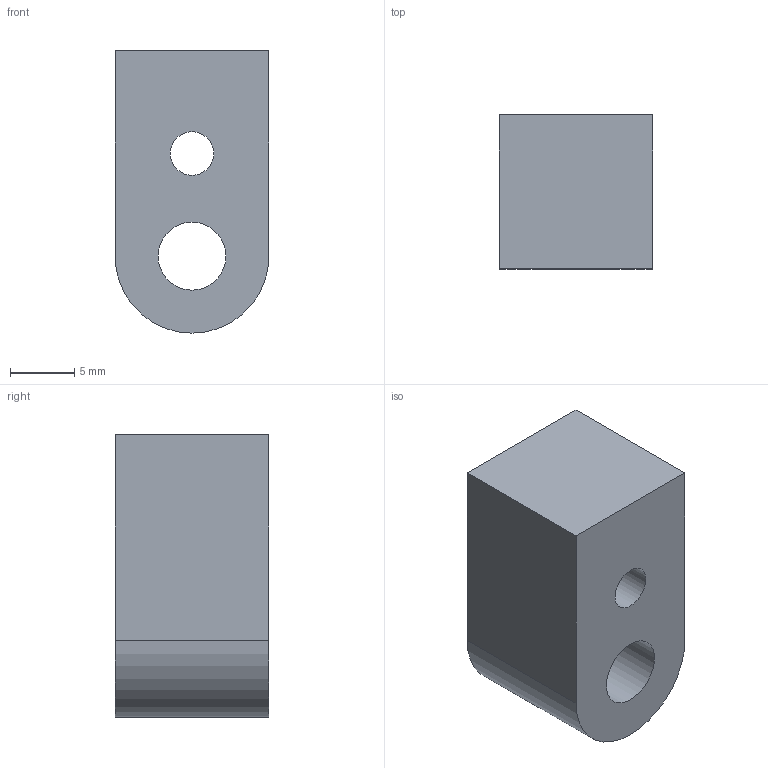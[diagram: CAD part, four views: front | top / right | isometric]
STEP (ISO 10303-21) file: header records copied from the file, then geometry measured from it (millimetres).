
FILE_DESCRIPTION(('Open CASCADE Model'),'2;1');
FILE_NAME('CP-HINGE-TONGUE','2026-11-15T22:30:29',('Author'),( 'Open CASCADE'),'Open CASCADE STEP processor 8.0','build123d', 'Unknown');
FILE_SCHEMA(('AUTOMOTIVE_DESIGN { 1 0 10303 214 1 1 1 1 }'));
Length unit declared in the file: millimetre
Products named in the file (1): CP-HINGE-TONGUE
Bounding box: 12 x 12 x 22 mm (x, y, z)
Volume: 2608.9 mm3; surface area: 1517 mm2
Topology: 1 solids, 1 shells, 8 faces, 18 edges, 12 vertices
Faces by surface type: plane 5, cylinder 3
Full cylindrical faces by diameter (mm): 3.4 x1, 5.3 x1
Entity records: 480 total; most frequent: DIRECTION 78, CARTESIAN_POINT 75, LINE 42, VECTOR 42, ORIENTED_EDGE 36, PCURVE 36, DEFINITIONAL_REPRESENTATION 36, EDGE_CURVE 18
